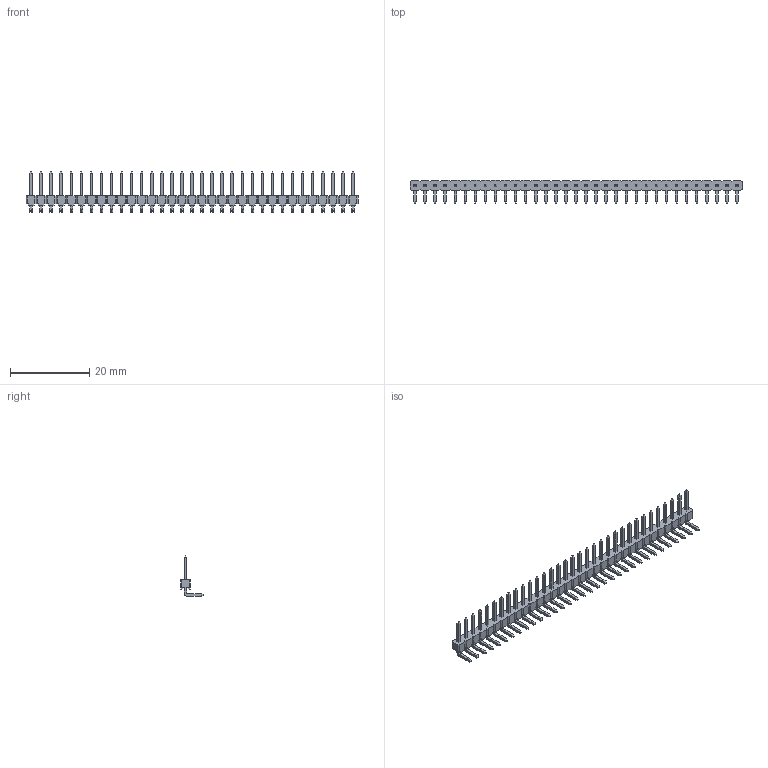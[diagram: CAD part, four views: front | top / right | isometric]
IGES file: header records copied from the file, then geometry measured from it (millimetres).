
Global section: file name: N:\GOLF_VI_2_54mm_UGII\961XXX-5X04-XX (TS-2182)\961133-5604-XX.igs; native system: NX V3.0; preprocessor: UGS NX IGES V4.0; date: 20070618.133502; units: millimetre
Bounding box: 83.82 x 5.8 x 10.32 mm (x, y, z)
Surface area: 1872.7 mm2 (no closed solid volume)
Topology: 0 solids, 0 shells, 1260 faces, 6691 edges, 6691 vertices
Faces by surface type: bspline 1260
